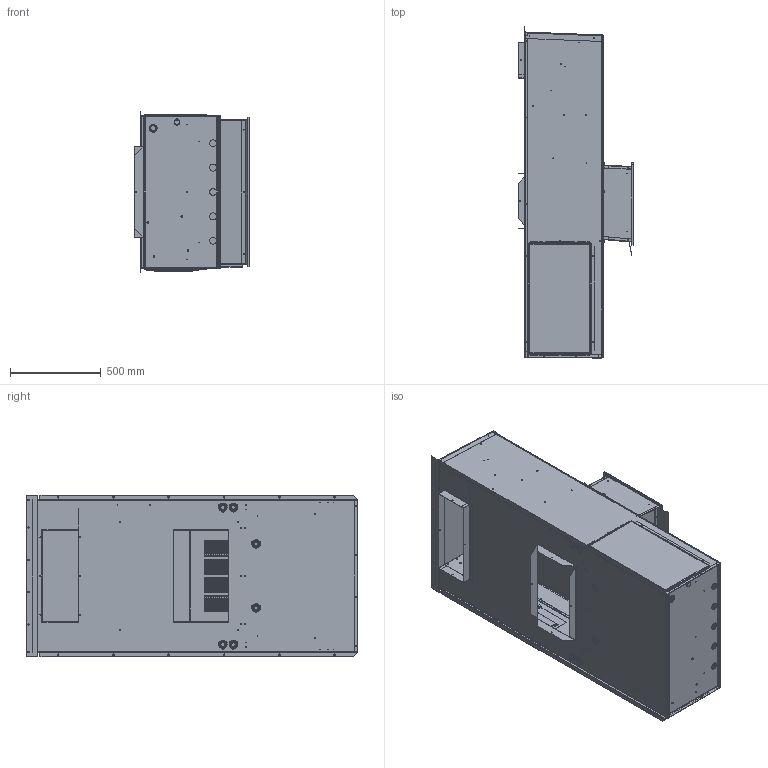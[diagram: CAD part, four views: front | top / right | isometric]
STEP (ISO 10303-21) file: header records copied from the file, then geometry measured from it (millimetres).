
FILE_DESCRIPTION (( 'STEP AP203' ), '1' );
FILE_NAME ('STEP_200_7.STEP', '2016-06-15T18:51:27', ( '' ), ( '' ), 'SwSTEP 2.0', 'SolidWorks 2016', '' );
FILE_SCHEMA (( 'CONFIG_CONTROL_DESIGN' ));
Length unit declared in the file: inch
Products named in the file (1): STEP_200_7
Bounding box: 638.31 x 1826.51 x 890.69 mm (x, y, z)
Surface area: 13182669.8 mm2 (no closed solid volume)
Topology: 0 solids, 104 shells, 1544 faces, 8781 edges, 6786 vertices
Faces by surface type: plane 1096, cylinder 297, torus 145, bspline 6
Entity records: 89865 total; most frequent: CARTESIAN_POINT 20620, DIRECTION 13900, ORIENTED_EDGE 11709, EDGE_CURVE 8781, VERTEX_POINT 6786, LINE 6302, VECTOR 6302, AXIS2_PLACEMENT_3D 3799
